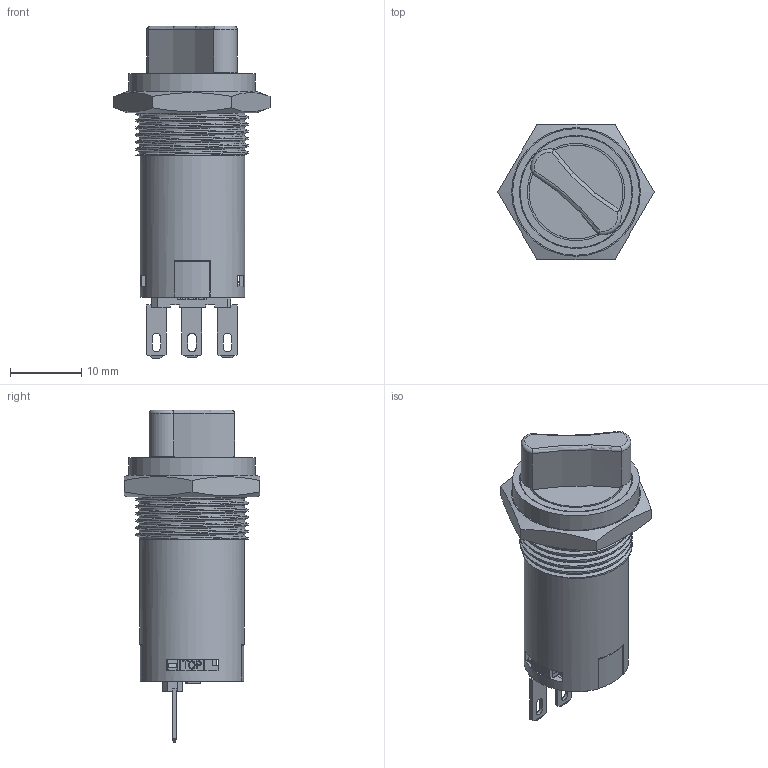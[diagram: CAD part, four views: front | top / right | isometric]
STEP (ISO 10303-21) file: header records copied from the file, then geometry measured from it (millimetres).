
FILE_DESCRIPTION(/* description */ (''),/* implementation_level */ '2;1');
FILE_NAME(/* name */ 'FM16N-SFP-11X.stp',/* time_stamp */ '2020-08-12T09:36:34+08:00',/* author */ (''),/* organization */ (''),/* preprocessor_version */ 'ST-DEVELOPER v16.7',/* originating_system */ 'SIEMENS PLM Software NX 12.0',/* authorisation */ '');
FILE_SCHEMA (('AUTOMOTIVE_DESIGN { 1 0 10303 214 3 1 1 1 }'));
Length unit declared in the file: millimetre
Products named in the file (1): Admi2798C965xfkl
Bounding box: 21.94 x 19 x 46.66 mm (x, y, z)
Volume: 3432 mm3; surface area: 7796.7 mm2
Topology: 1 solids, 3 shells, 876 faces, 2574 edges, 1692 vertices
Faces by surface type: plane 705, cylinder 130, cone 15, extrusion 12, bspline 8, torus 5, sphere 1
Full cylindrical faces by diameter (mm): 1 x2, 2.1 x1, 2.6 x2, 2.9 x1, 3 x1, 12.2 x1, 13.2 x1, 13.7 x1, 14.1 x1, 14.7 x1, 15.7 x1, 15.9 x1, 17.8 x1
Entity records: 36597 total; most frequent: CARTESIAN_POINT 7555, ORIENTED_EDGE 5096, DIRECTION 4491, EDGE_CURVE 2548, VECTOR 2107, LINE 2095, VERTEX_POINT 1688, AXIS2_PLACEMENT_3D 1192
